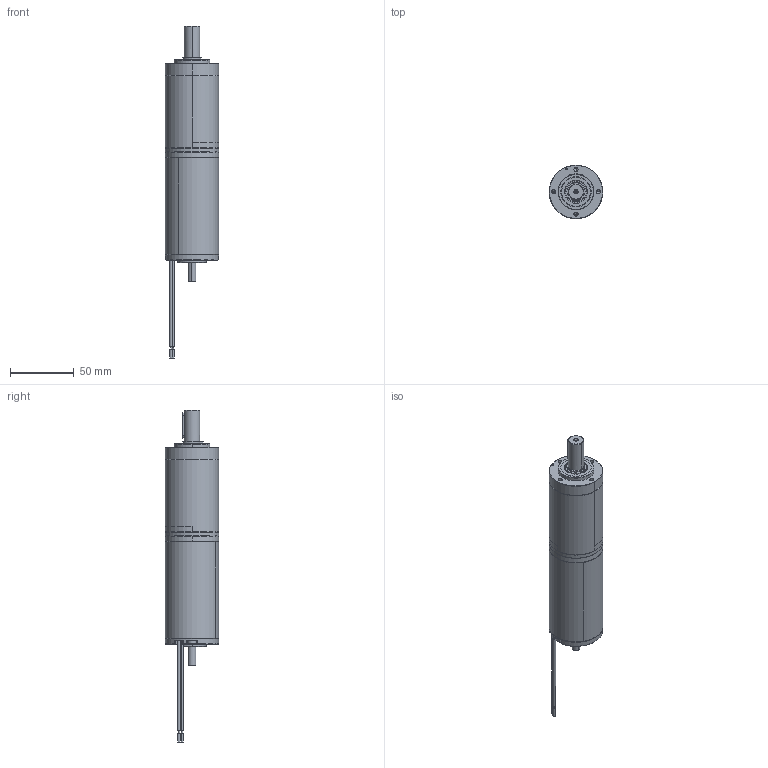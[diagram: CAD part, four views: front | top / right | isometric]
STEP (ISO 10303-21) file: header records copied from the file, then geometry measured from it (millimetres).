
FILE_DESCRIPTION (( 'STEP AP214' ), '1' );
FILE_NAME ('BRx42-40-PGx42 (3 Stage).STEP', '2025-05-13T06:15:49', ( '' ), ( '' ), 'SwSTEP 2.0', 'SolidWorks 2023', '' );
FILE_SCHEMA (( 'AUTOMOTIVE_DESIGN' ));
Length unit declared in the file: millimetre
Products named in the file (1): BRx42-40-PGx42 (3 Stage)
Bounding box: 42 x 42 x 260.35 mm (x, y, z)
Volume: 134915.9 mm3; surface area: 56923.4 mm2
Topology: 17 solids, 17 shells, 1574 faces, 3781 edges, 2352 vertices
Faces by surface type: plane 519, cylinder 313, cone 310, torus 222, bspline 186, sphere 24
Entity records: 73119 total; most frequent: CARTESIAN_POINT 19872, ORIENTED_EDGE 7522, DIRECTION 7355, EDGE_CURVE 3761, AXIS2_PLACEMENT_3D 2991, VERTEX_POINT 2352, EDGE_LOOP 1747, CIRCLE 1602
